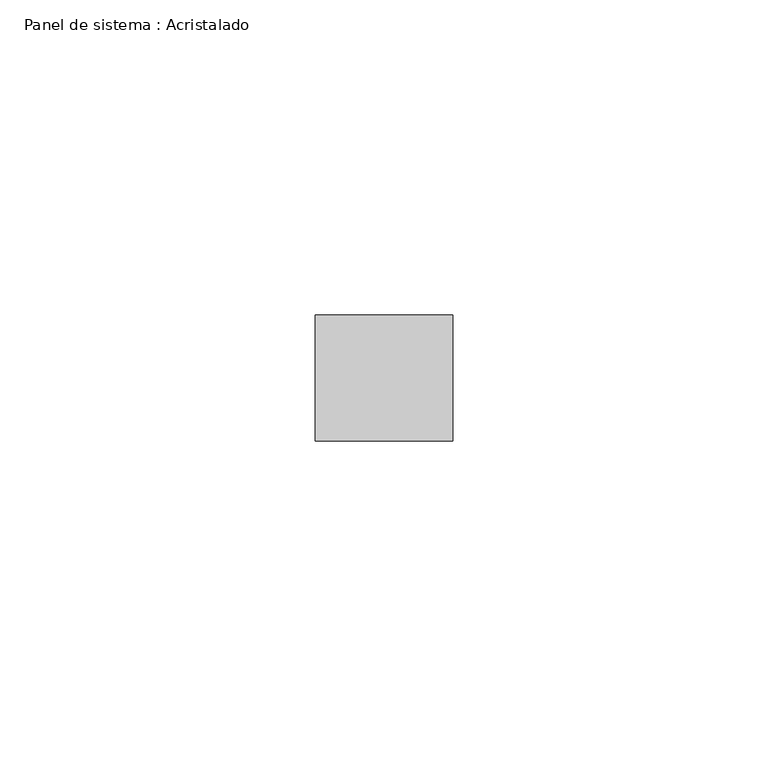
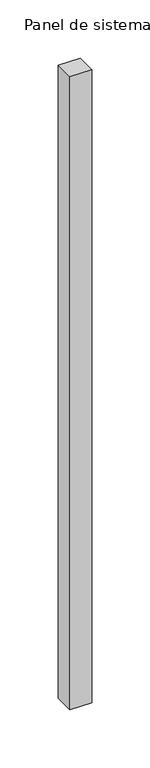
"""IFC4 building model written with IfcOpenShell, lengths in millimetres: plate geometry, Panel de sistema : Acristalado."""

from ifc_helpers import new_model, si_unit, origin, origin_with_axes, place, context, project, spatial, polyline, outline, extrude, source, transform, mapped, element, save


def panel_de_sistema_acristalado_62f6072b(model_context):
    return source(origin(), model_context, "Body", "SweptSolid", [
        extrude(outline(polyline([(10.9028082, -10.0), (-10.9028082, -10.0), (-10.9028082, 10.0), (10.9028082, 10.0), (10.9028082, -10.0)])), origin_with_axes(), (0.0, 0.0, 1.0), 665.0),
    ])


if __name__ == "__main__":
    model = new_model("IFC4")
    model_context = context("Model", 3, world=origin())
    ifc_project = project(units=[si_unit("LENGTHUNIT", "METRE", prefix="MILLI")], contexts=[model_context])
    site = spatial("IfcSite", under=ifc_project)
    building = spatial("IfcBuilding", under=site)
    placement = place(None, origin())
    panel_de_sistema_acristalado_shape = panel_de_sistema_acristalado_62f6072b(model_context)
    element("IfcPlate", 1, ObjectType="Panel de sistema : Acristalado", at=placement, inside=building, context=model_context, shape_type="MappedRepresentation", body=[
        mapped(panel_de_sistema_acristalado_shape, transform((0.0, 0.0, 0.0), x_axis=(1.0, 0.0, 0.0), y_axis=(0.0, 1.0, 0.0), z_axis=(0.0, 0.0, 1.0))),
    ])
    save(model, "model.ifc")
